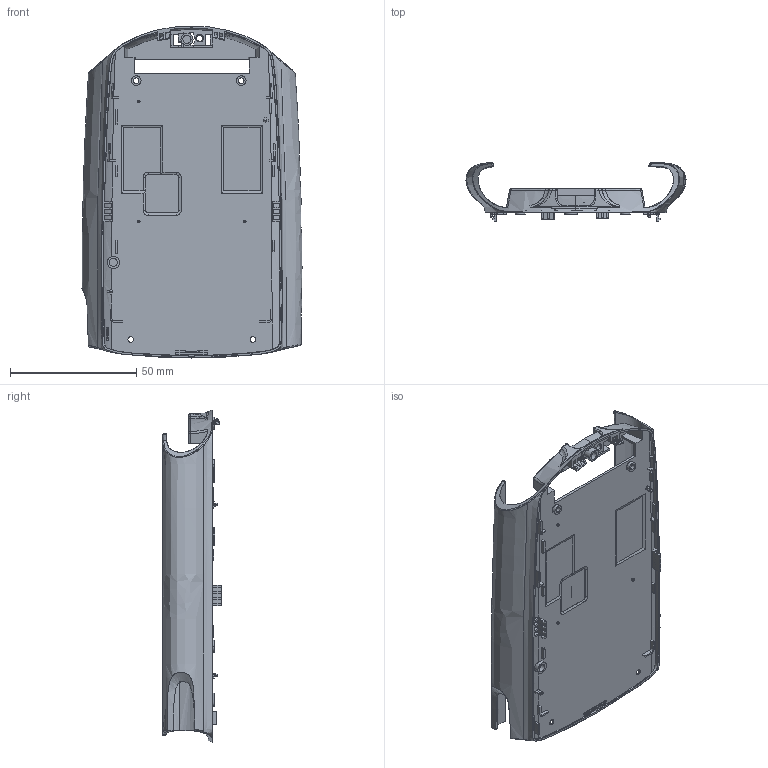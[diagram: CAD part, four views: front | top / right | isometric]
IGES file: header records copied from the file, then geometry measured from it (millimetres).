
Start section:  PTC IGES file: jc_option_jacket_prt.igs
Global section: file name: jc_option_jacket_prt.igs; native system: Pro/ENGINEER by Parametric Technology Corporation; preprocessor: 2000030; author: ECaille; organization: Unknown; date: 000803.092104; units: millimetre
Bounding box: 87.13 x 23.2 x 131.48 mm (x, y, z)
Surface area: 32812.8 mm2 (no closed solid volume)
Topology: 0 solids, 0 shells, 549 faces, 5072 edges, 7067 vertices
Faces by surface type: bspline 410, revolution 99, extrusion 40
